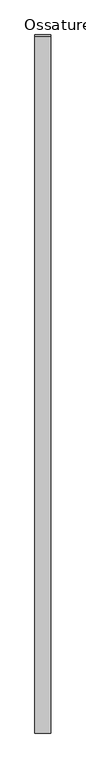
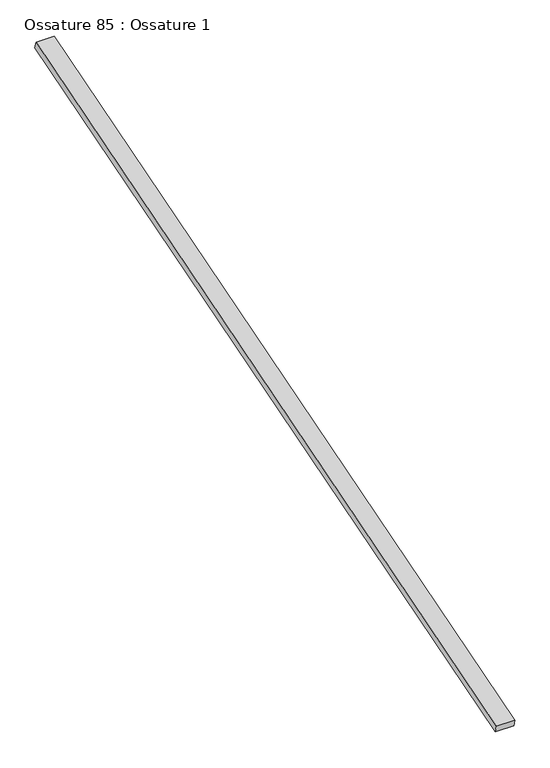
"""IFC4 building model written with IfcOpenShell, lengths in millimetres: beam geometry, Ossature 85 : Ossature 1."""

from ifc_helpers import new_model, si_unit, frame, origin, place, context, project, spatial, polyline, outline, extrude, source, transform, mapped, element, save


def ossature_85_ossature_1_482369ec(model_context):
    return source(origin(), model_context, "Body", "SweptSolid", [
        extrude(outline(polyline([(0.0, 0.0), (0.0, -4543.0299679), (-100.0, -4543.0299679), (-100.0, 0.0), (0.0, 0.0)])), frame((20528.6466393, -833.3913565, 8153.6336115), z_axis=(0.0, -0.28734788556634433, 0.9578262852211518), x_axis=(-1.0, 0.0, 0.0)), (0.0, 0.0, 1.0), 40.0),
    ])


if __name__ == "__main__":
    model = new_model("IFC4")
    model_context = context("Model", 3, world=origin())
    ifc_project = project(units=[si_unit("LENGTHUNIT", "METRE", prefix="MILLI")], contexts=[model_context])
    site = spatial("IfcSite", under=ifc_project)
    building = spatial("IfcBuilding", under=site)
    placement = place(None, origin())
    ossature_85_ossature_1_shape = ossature_85_ossature_1_482369ec(model_context)
    element("IfcBeam", 1, ObjectType="Ossature 85 : Ossature 1", at=placement, inside=building, context=model_context, shape_type="MappedRepresentation", body=[
        mapped(ossature_85_ossature_1_shape, transform((0.0, 0.0, 0.0), x_axis=(1.0, 0.0, 0.0), y_axis=(0.0, 1.0, 0.0), z_axis=(0.0, 0.0, 1.0))),
    ])
    save(model, "model.ifc")
